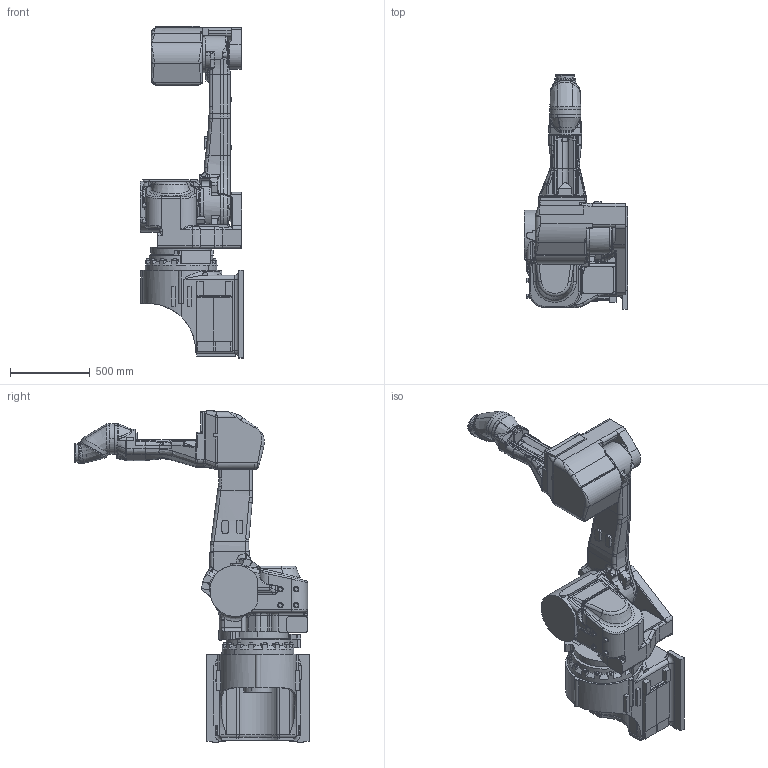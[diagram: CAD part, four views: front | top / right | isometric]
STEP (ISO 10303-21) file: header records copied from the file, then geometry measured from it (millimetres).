
FILE_DESCRIPTION(('CATIA V5 STEP Exchange'),'2;1');
FILE_NAME('F:\☆新しいフォルダ\【K-ROSET】\K-ROSET_モデル\ロボット\※ロボット\※K\☆150522_KJシリーズ一新\受領モデル\KJ\ASSY\○KJ194J-F101(kabe)\ASSY\STEP_160223\KJ194-F101.stp','2016-02-23T01:48:01+00:00',('none'),('none'),'CATIA Version 5-6 Release 2013 SP5 HF60','CATIA V5 STEP AP203','none');
FILE_SCHEMA(('CONFIG_CONTROL_DESIGN'));
Products named in the file (1): KJ194-F101
Assembly tree (7 placements, depth 2):
  KJ194-F101
    #57
    #21986
    #44306
    #60757
    #97335
    #97851
    #98969
Bounding box: 645 x 1465 x 2076 mm (x, y, z)
Volume: 232215807.8 mm3; surface area: 8485895.2 mm2
Topology: 8 solids, 40 shells, 2281 faces, 5827 edges, 3565 vertices
Faces by surface type: plane 774, cylinder 755, bspline 397, cone 168, torus 146, sphere 30, extrusion 8, revolution 3
Entity records: 100148 total; most frequent: CARTESIAN_POINT 51996, ORIENTED_EDGE 11374, DIRECTION 7095, EDGE_CURVE 5687, VERTEX_POINT 3565, AXIS2_PLACEMENT_3D 3246, VECTOR 2402, LINE 2394
